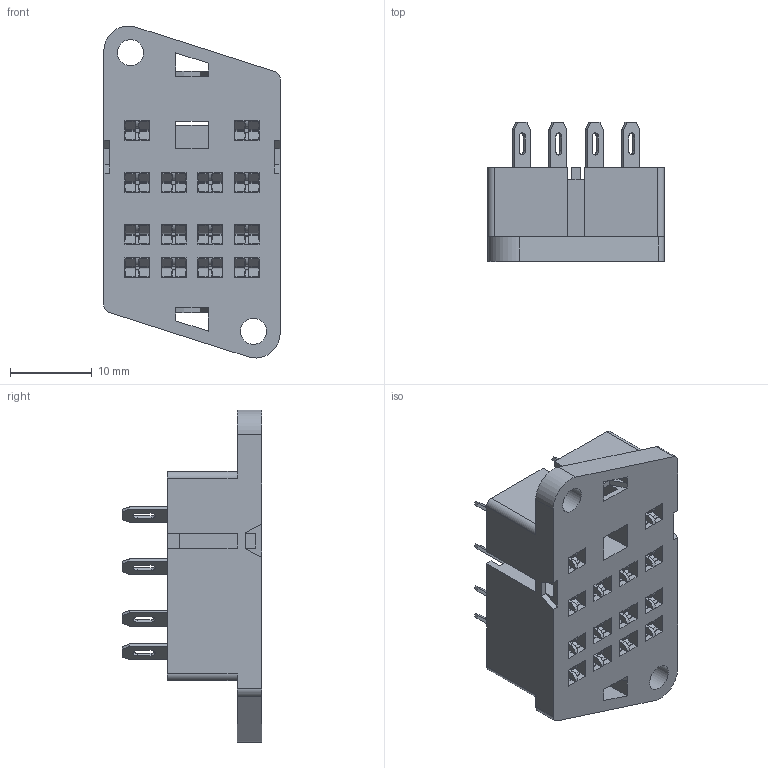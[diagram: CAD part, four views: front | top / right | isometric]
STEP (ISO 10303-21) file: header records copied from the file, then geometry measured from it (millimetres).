
FILE_DESCRIPTION(/* description */ (''),/* implementation_level */ '2;1');
FILE_NAME(/* name */ 'C:\Desktop\3D 94.34\94.34.stp',/* time_stamp */ '2016-03-09T15:12:57+01:00',/* author */ ('marco'),/* organization */ (''),/* preprocessor_version */ 'ST-DEVELOPER v16.1',/* originating_system */ 'Autodesk Inventor 2016',/* authorisation */ '');
FILE_SCHEMA (('AUTOMOTIVE_DESIGN { 1 0 10303 214 3 1 1 }'));
Length unit declared in the file: centimetre
Products named in the file (1): 94.34
Bounding box: 21.5 x 17 x 40.5 mm (x, y, z)
Volume: 5340.9 mm3; surface area: 6916.5 mm2
Topology: 1 solids, 1 shells, 1442 faces, 4528 edges, 2940 vertices
Faces by surface type: plane 1152, cylinder 290
Full cylindrical faces by diameter (mm): 3.2 x2
Entity records: 50315 total; most frequent: ORIENTED_EDGE 9052, CARTESIAN_POINT 8909, DIRECTION 7992, EDGE_CURVE 4526, LINE 3946, VECTOR 3946, VERTEX_POINT 2940, AXIS2_PLACEMENT_3D 2023
